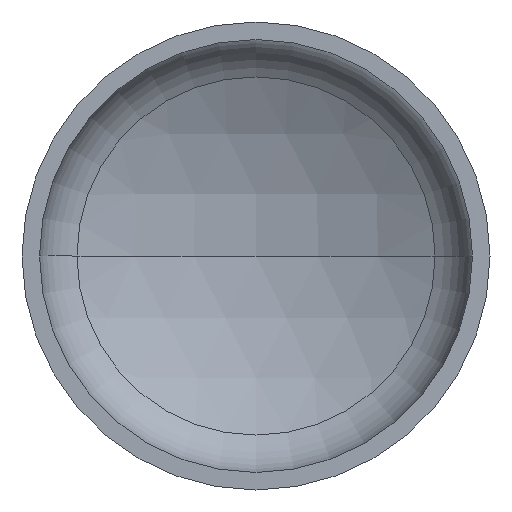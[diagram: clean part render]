
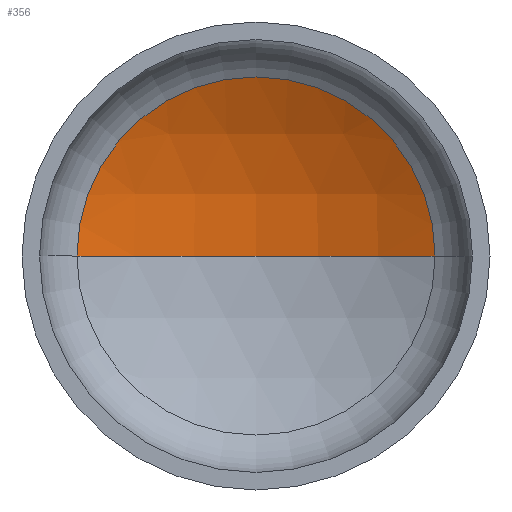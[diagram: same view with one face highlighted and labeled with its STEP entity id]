
A CAD part, front view. The second image highlights one B-rep face of the part: STEP entity #356.
In plain terms, the highlighted spherical face has radius 1280 mm.
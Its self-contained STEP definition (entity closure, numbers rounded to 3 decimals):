
#2 = AXIS2_PLACEMENT_3D ( 'NONE', #116, #311, #279 ) ;
#7 = AXIS2_PLACEMENT_3D ( 'NONE', #172, #171, #170 ) ;
#28 = AXIS2_PLACEMENT_3D ( 'NONE', #391, #392, #206 ) ;
#33 = AXIS2_PLACEMENT_3D ( 'NONE', #220, #219, #216 ) ;
#61 = ORIENTED_EDGE ( 'NONE', *, *, #90, .T. ) ;
#90 = EDGE_CURVE ( 'NONE', #354, #103, #251, .T. ) ;
#96 = EDGE_CURVE ( 'NONE', #323, #354, #408, .T. ) ;
#103 = VERTEX_POINT ( 'NONE', #397 ) ;
#116 = CARTESIAN_POINT ( 'NONE',  ( 0., -788.955, 0. ) ) ;
#138 = FACE_OUTER_BOUND ( 'NONE', #386, .T. ) ;
#170 = DIRECTION ( 'NONE',  ( 1., 0., 0. ) ) ;
#171 = DIRECTION ( 'NONE',  ( 0., 0., 1. ) ) ;
#172 = CARTESIAN_POINT ( 'NONE',  ( 0., -788.955, 0. ) ) ;
#176 = CARTESIAN_POINT ( 'NONE',  ( 612.174, 335.163, 0. ) ) ;
#206 = DIRECTION ( 'NONE',  ( 1., 0., 0. ) ) ;
#209 = SPHERICAL_SURFACE ( 'NONE', #2, 1280. ) ;
#216 = DIRECTION ( 'NONE',  ( -1., 0., 0. ) ) ;
#219 = DIRECTION ( 'NONE',  ( 0., 0., -1. ) ) ;
#220 = CARTESIAN_POINT ( 'NONE',  ( 0., -788.955, 0. ) ) ;
#251 = CIRCLE ( 'NONE', #28, 612.174 ) ;
#252 = ORIENTED_EDGE ( 'NONE', *, *, #96, .T. ) ;
#269 = ORIENTED_EDGE ( 'NONE', *, *, #348, .F. ) ;
#279 = DIRECTION ( 'NONE',  ( -1., 0., 0. ) ) ;
#311 = DIRECTION ( 'NONE',  ( 0., 0., -1. ) ) ;
#323 = VERTEX_POINT ( 'NONE', #388 ) ;
#348 = EDGE_CURVE ( 'NONE', #323, #103, #364, .T. ) ;
#354 = VERTEX_POINT ( 'NONE', #176 ) ;
#356 = ADVANCED_FACE ( 'NONE', ( #138 ), #209, .F. ) ;
#364 = CIRCLE ( 'NONE', #7, 1280. ) ;
#386 = EDGE_LOOP ( 'NONE', ( #269, #252, #61 ) ) ;
#388 = CARTESIAN_POINT ( 'NONE',  ( 0., 491.045, 0. ) ) ;
#391 = CARTESIAN_POINT ( 'NONE',  ( 0., 335.163, 0. ) ) ;
#392 = DIRECTION ( 'NONE',  ( 0., -1., 0. ) ) ;
#397 = CARTESIAN_POINT ( 'NONE',  ( -612.174, 335.163, 0. ) ) ;
#408 = CIRCLE ( 'NONE', #33, 1280. ) ;
